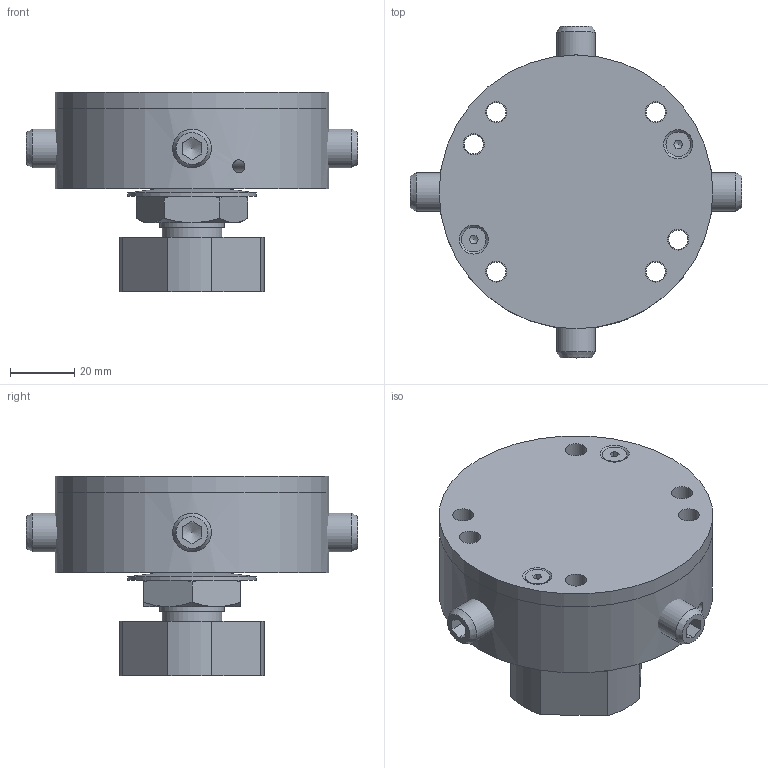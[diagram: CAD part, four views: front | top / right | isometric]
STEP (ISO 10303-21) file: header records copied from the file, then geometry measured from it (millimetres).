
FILE_DESCRIPTION(/* description */ (''),/* implementation_level */ '2;1');
FILE_NAME(/* name */ 'C:\Local Work Area\Progetti\AP\CALIBRI\325.00 Fissaggio normale\325.00.stp',/* time_stamp */ '2017-03-21T16:19:02+01:00',/* author */ ('CAD5'),/* organization */ (''),/* preprocessor_version */ 'ST-DEVELOPER v16.1',/* originating_system */ 'Autodesk Inventor 2016',/* authorisation */ '0 mm^3');
FILE_SCHEMA (('AUTOMOTIVE_DESIGN { 1 0 10303 214 3 1 1 }'));
Length unit declared in the file: millimetre
Products named in the file (9): 325.01; 325.02; 325.05; 325.03; UNI 5589 basso - M20 - 1,5; 325.04; BAUER 40x20.4x1 C24020 DIM; UNI 5933 - M4 x 10; 325.00
Assembly tree (12 placements, depth 2):
  325.00
    325.01
    325.02
    325.05  x4
    325.03
    UNI 5589 basso - M20 - 1,5
    325.04
    BAUER 40x20.4x1 C24020 DIM
    UNI 5933 - M4 x 10  x2
Bounding box: 103 x 103 x 62 mm (x, y, z)
Volume: 184109.8 mm3; surface area: 63797.7 mm2
Topology: 12 solids, 12 shells, 184 faces, 429 edges, 273 vertices
Faces by surface type: plane 93, cylinder 49, cone 41, torus 1
Full cylindrical faces by diameter (mm): 3.242 x2, 4 x3, 4.5 x2, 6 x6, 6.5 x6, 7.64 x2, 8.376 x1, 10.106 x4, 11 x4, 12 x5, 18.376 x2, 18.5 x1, 20 x1, 31 x1, 37 x1, 40 x1, 55 x1, 85 x2
Entity records: 3962 total; most frequent: CARTESIAN_POINT 989, DIRECTION 600, ORIENTED_EDGE 470, AXIS2_PLACEMENT_3D 257, EDGE_LOOP 244, EDGE_CURVE 235, VERTEX_POINT 179, FACE_OUTER_BOUND 135
